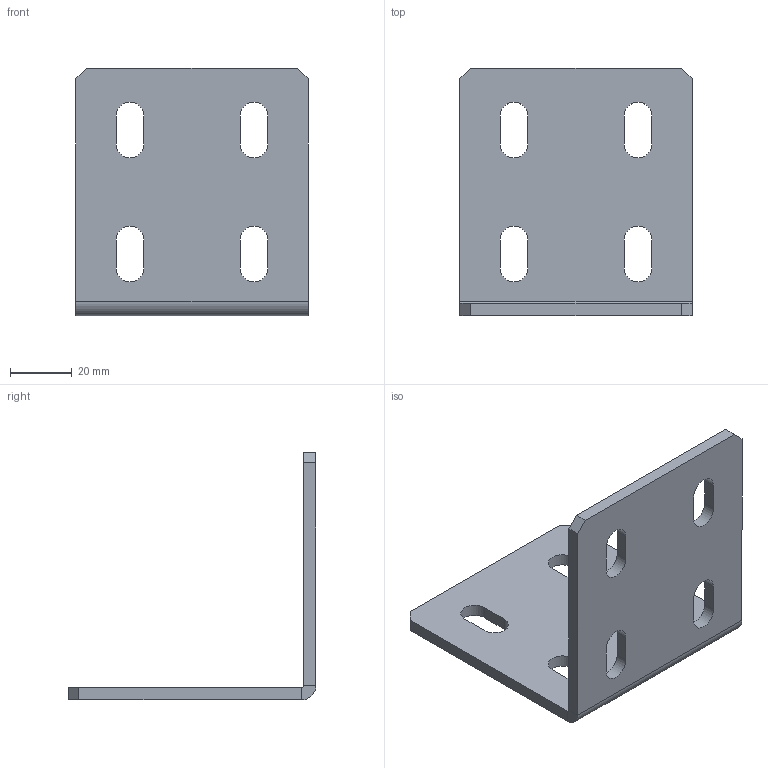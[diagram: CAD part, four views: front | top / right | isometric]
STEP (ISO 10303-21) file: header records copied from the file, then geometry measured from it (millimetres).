
FILE_DESCRIPTION (( 'STEP AP203' ), '1' );
FILE_NAME ('DSB8075-8.STEP', '2019-09-03T07:49:33', ( '' ), ( '' ), 'SwSTEP 2.0', 'SolidWorks 2017', '' );
FILE_SCHEMA (( 'CONFIG_CONTROL_DESIGN' ));
Length unit declared in the file: millimetre
Products named in the file (1): DSB8075-8
Bounding box: 75 x 80 x 80 mm (x, y, z)
Volume: 41721.9 mm3; surface area: 24147.5 mm2
Topology: 1 solids, 1 shells, 54 faces, 148 edges, 96 vertices
Faces by surface type: plane 32, cylinder 22
Entity records: 1821 total; most frequent: DIRECTION 302, CARTESIAN_POINT 299, ORIENTED_EDGE 296, EDGE_CURVE 148, VECTOR 104, LINE 104, AXIS2_PLACEMENT_3D 99, VERTEX_POINT 96
